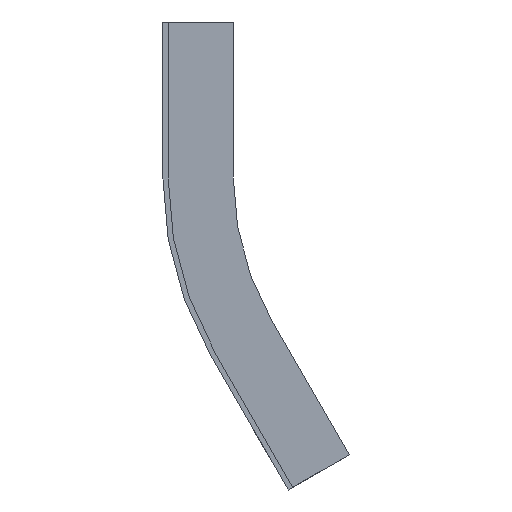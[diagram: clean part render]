
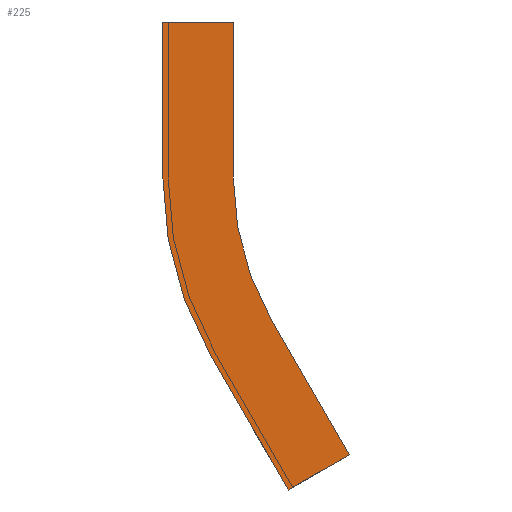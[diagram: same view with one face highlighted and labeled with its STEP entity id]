
A CAD part, left-side view. The second image highlights one B-rep face of the part: STEP entity #225.
In plain terms, the highlighted planar face has unit normal (-1, 0, 0).
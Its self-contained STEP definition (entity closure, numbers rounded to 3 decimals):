
#7 = CARTESIAN_POINT ( 'NONE',  ( -303.5, -13.598, -94.75 ) ) ;
#8 = DIRECTION ( 'NONE',  ( 0., -0.5, -0.866 ) ) ;
#25 = CARTESIAN_POINT ( 'NONE',  ( -303.5, -20., 0. ) ) ;
#41 = ORIENTED_EDGE ( 'NONE', *, *, #789, .F. ) ;
#59 = VERTEX_POINT ( 'NONE', #398 ) ;
#61 = VERTEX_POINT ( 'NONE', #262 ) ;
#63 = VECTOR ( 'NONE', #556, 1000. ) ;
#66 = VERTEX_POINT ( 'NONE', #733 ) ;
#70 = LINE ( 'NONE', #128, #707 ) ;
#88 = DIRECTION ( 'NONE',  ( 0., 0.5, 0.866 ) ) ;
#115 = ORIENTED_EDGE ( 'NONE', *, *, #787, .F. ) ;
#119 = VERTEX_POINT ( 'NONE', #300 ) ;
#128 = CARTESIAN_POINT ( 'NONE',  ( -303.5, -35.598, -132.855 ) ) ;
#132 = EDGE_CURVE ( 'NONE', #473, #119, #753, .T. ) ;
#156 = CARTESIAN_POINT ( 'NONE',  ( -303.5, 0., 0. ) ) ;
#157 = EDGE_CURVE ( 'NONE', #61, #473, #178, .T. ) ;
#173 = CARTESIAN_POINT ( 'NONE',  ( -303.5, -101.5, -44. ) ) ;
#178 = LINE ( 'NONE', #703, #615 ) ;
#210 = VECTOR ( 'NONE', #557, 1000. ) ;
#225 = ADVANCED_FACE ( 'NONE', ( #836 ), #318, .T. ) ;
#262 = CARTESIAN_POINT ( 'NONE',  ( -303.5, -20., 0. ) ) ;
#267 = DIRECTION ( 'NONE',  ( 0., 0., 1. ) ) ;
#275 = LINE ( 'NONE', #25, #63 ) ;
#292 = LINE ( 'NONE', #680, #809 ) ;
#300 = CARTESIAN_POINT ( 'NONE',  ( -303.5, -30.919, -84.75 ) ) ;
#318 = PLANE ( 'NONE',  #535 ) ;
#322 = VERTEX_POINT ( 'NONE', #7 ) ;
#336 = ORIENTED_EDGE ( 'NONE', *, *, #688, .F. ) ;
#372 = VERTEX_POINT ( 'NONE', #415 ) ;
#388 = ORIENTED_EDGE ( 'NONE', *, *, #814, .F. ) ;
#394 = ORIENTED_EDGE ( 'NONE', *, *, #132, .F. ) ;
#398 = CARTESIAN_POINT ( 'NONE',  ( -303.5, 0., -44. ) ) ;
#415 = CARTESIAN_POINT ( 'NONE',  ( -303.5, -35.598, -132.855 ) ) ;
#429 = LINE ( 'NONE', #156, #210 ) ;
#448 = DIRECTION ( 'NONE',  ( -1., 0., 0. ) ) ;
#454 = AXIS2_PLACEMENT_3D ( 'NONE', #639, #762, #630 ) ;
#462 = CARTESIAN_POINT ( 'NONE',  ( -303.5, -101.5, -44. ) ) ;
#473 = VERTEX_POINT ( 'NONE', #800 ) ;
#513 = DIRECTION ( 'NONE',  ( 0., 0., -1. ) ) ;
#519 = LINE ( 'NONE', #857, #783 ) ;
#535 = AXIS2_PLACEMENT_3D ( 'NONE', #173, #448, #700 ) ;
#556 = DIRECTION ( 'NONE',  ( 0., -1., 0. ) ) ;
#557 = DIRECTION ( 'NONE',  ( 0., 0., 1. ) ) ;
#559 = CIRCLE ( 'NONE', #681, 101.5 ) ;
#564 = VERTEX_POINT ( 'NONE', #833 ) ;
#600 = DIRECTION ( 'NONE',  ( 1., 0., 0. ) ) ;
#615 = VECTOR ( 'NONE', #513, 1000. ) ;
#624 = EDGE_CURVE ( 'NONE', #66, #372, #70, .T. ) ;
#630 = DIRECTION ( 'NONE',  ( 0., 0., -1. ) ) ;
#639 = CARTESIAN_POINT ( 'NONE',  ( -303.5, -101.5, -44. ) ) ;
#648 = DIRECTION ( 'NONE',  ( 0., 0.866, -0.5 ) ) ;
#649 = EDGE_LOOP ( 'NONE', ( #388, #115, #775, #41, #704, #336, #394, #758 ) ) ;
#661 = EDGE_CURVE ( 'NONE', #322, #59, #559, .T. ) ;
#680 = CARTESIAN_POINT ( 'NONE',  ( -303.5, -13.598, -94.75 ) ) ;
#681 = AXIS2_PLACEMENT_3D ( 'NONE', #462, #600, #267 ) ;
#688 = EDGE_CURVE ( 'NONE', #119, #66, #519, .T. ) ;
#700 = DIRECTION ( 'NONE',  ( 0., 0., 1. ) ) ;
#703 = CARTESIAN_POINT ( 'NONE',  ( -303.5, -20., -44. ) ) ;
#704 = ORIENTED_EDGE ( 'NONE', *, *, #624, .F. ) ;
#707 = VECTOR ( 'NONE', #648, 1000. ) ;
#733 = CARTESIAN_POINT ( 'NONE',  ( -303.5, -52.919, -122.855 ) ) ;
#753 = CIRCLE ( 'NONE', #454, 81.5 ) ;
#758 = ORIENTED_EDGE ( 'NONE', *, *, #157, .F. ) ;
#762 = DIRECTION ( 'NONE',  ( -1., 0., 0. ) ) ;
#775 = ORIENTED_EDGE ( 'NONE', *, *, #661, .F. ) ;
#783 = VECTOR ( 'NONE', #8, 1000. ) ;
#787 = EDGE_CURVE ( 'NONE', #59, #564, #429, .T. ) ;
#789 = EDGE_CURVE ( 'NONE', #372, #322, #292, .T. ) ;
#800 = CARTESIAN_POINT ( 'NONE',  ( -303.5, -20., -44. ) ) ;
#809 = VECTOR ( 'NONE', #88, 1000. ) ;
#814 = EDGE_CURVE ( 'NONE', #564, #61, #275, .T. ) ;
#833 = CARTESIAN_POINT ( 'NONE',  ( -303.5, 0., 0. ) ) ;
#836 = FACE_OUTER_BOUND ( 'NONE', #649, .T. ) ;
#857 = CARTESIAN_POINT ( 'NONE',  ( -303.5, -52.919, -122.855 ) ) ;
